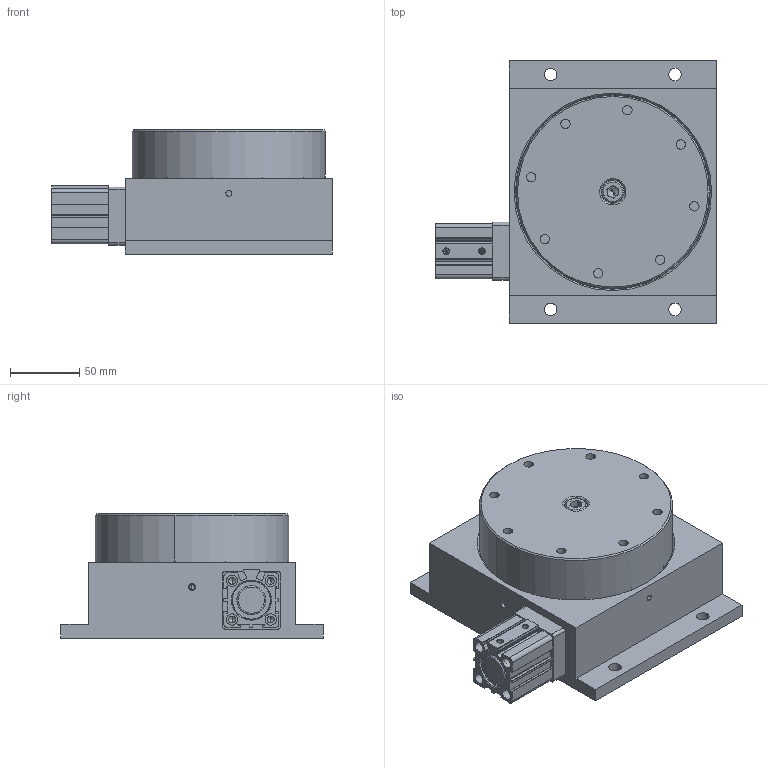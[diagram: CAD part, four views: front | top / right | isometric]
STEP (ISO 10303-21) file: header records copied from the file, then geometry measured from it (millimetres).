
FILE_DESCRIPTION (( 'STEP AP214' ), '1' );
FILE_NAME ('RTIND_25.STEP', '2019-06-26T17:09:47', ( '' ), ( '' ), 'SwSTEP 2.0', 'SolidWorks 2018', '' );
FILE_SCHEMA (( 'AUTOMOTIVE_DESIGN' ));
Length unit declared in the file: millimetre
Products named in the file (14): RTIND_25; SDA25X20; c-type retaining ring_internal_ks_KS 1336 I - 30; 25X20 M尳; K54-18X25X2_1; KEÇE YATAÐI; K52-10; SDA25ONKAPAK; SDA25ARKAKAPAK; SDA25X20BORU; DELRÝN_YATAK_WEB; socket head cap screw_am_B18.3.1M - 10 x 1.5 x 50 Hex SHCS -- 32NHX; DONER_UST_TABLA_WEB; GOVDE_KREMAYER_WEB
Assembly tree (14 placements, depth 3):
  RTIND_25
    GOVDE_KREMAYER_WEB
    DONER_UST_TABLA_WEB
    socket head cap screw_am_B18.3.1M - 10 x 1.5 x 50 Hex SHCS -- 32NHX
    DELRÝN_YATAK_WEB
    SDA25X20
      SDA25X20BORU
      SDA25ARKAKAPAK
      SDA25ONKAPAK
      K52-10
      KEÇE YATAÐI
      K54-18X25X2_1
      25X20 M尳
      c-type retaining ring_internal_ks_KS 1336 I - 30  x2
Bounding box: 203.3 x 190 x 90 mm (x, y, z)
Volume: 1654109.1 mm3; surface area: 210099.2 mm2
Topology: 13 solids, 13 shells, 996 faces, 2478 edges, 1601 vertices
Faces by surface type: plane 437, cylinder 312, cone 128, bspline 105, torus 14
Entity records: 35023 total; most frequent: CARTESIAN_POINT 10957, ORIENTED_EDGE 4818, DIRECTION 4737, EDGE_CURVE 2409, AXIS2_PLACEMENT_3D 1673, VERTEX_POINT 1563, LINE 1391, VECTOR 1391
